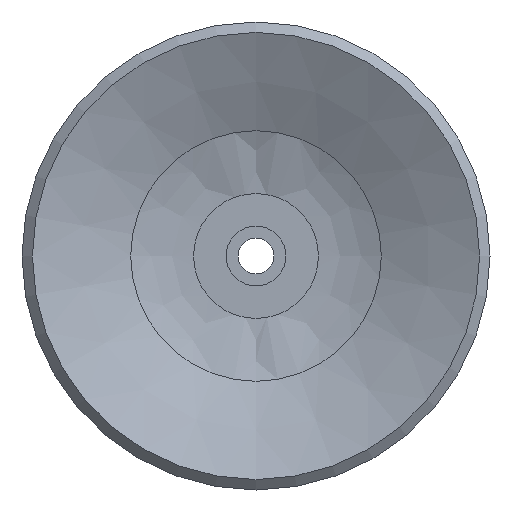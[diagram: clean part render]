
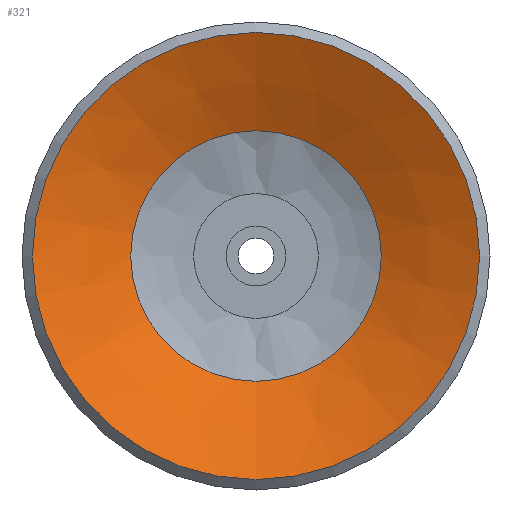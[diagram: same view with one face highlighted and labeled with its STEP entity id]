
A CAD part, front view. The second image highlights one B-rep face of the part: STEP entity #321.
In plain terms, the highlighted conical face has half-angle 65.056 degrees and reference radius 3.2 mm.
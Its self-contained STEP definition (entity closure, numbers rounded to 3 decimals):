
#321=ADVANCED_FACE('',(#470,#471),#472,.F.);
#470=FACE_BOUND('',#658,.T.);
#471=FACE_OUTER_BOUND('',#659,.T.);
#472=CONICAL_SURFACE('',#660,3.2,1.135);
#658=EDGE_LOOP('',(#958));
#659=EDGE_LOOP('',(#959));
#660=AXIS2_PLACEMENT_3D('',#960,#961,#962);
#958=ORIENTED_EDGE('',*,*,#1043,.T.);
#959=ORIENTED_EDGE('',*,*,#1044,.T.);
#960=CARTESIAN_POINT('',(0.0,7.896,0.0));
#961=DIRECTION('',(-0.0,-1.0,0.));
#962=DIRECTION('',(0.0,0.,-1.0));
#1043=EDGE_CURVE('',#1173,#1173,#1174,.T.);
#1044=EDGE_CURVE('',#1175,#1175,#1176,.T.);
#1173=VERTEX_POINT('',#1341);
#1174=CIRCLE('',#1342,4.203);
#1175=VERTEX_POINT('',#1343);
#1176=CIRCLE('',#1344,7.5);
#1341=CARTESIAN_POINT('',(0.0,7.43,-4.203));
#1342=AXIS2_PLACEMENT_3D('',#1495,#1496,#1497);
#1343=CARTESIAN_POINT('',(0.0,5.896,-7.5));
#1344=AXIS2_PLACEMENT_3D('',#1498,#1499,#1500);
#1495=CARTESIAN_POINT('',(0.0,7.43,0.0));
#1496=DIRECTION('',(0.0,1.0,0.));
#1497=DIRECTION('',(0.0,0.,-1.0));
#1498=CARTESIAN_POINT('',(0.0,5.896,0.0));
#1499=DIRECTION('',(0.0,-1.0,0.));
#1500=DIRECTION('',(0.0,0.,-1.0));
